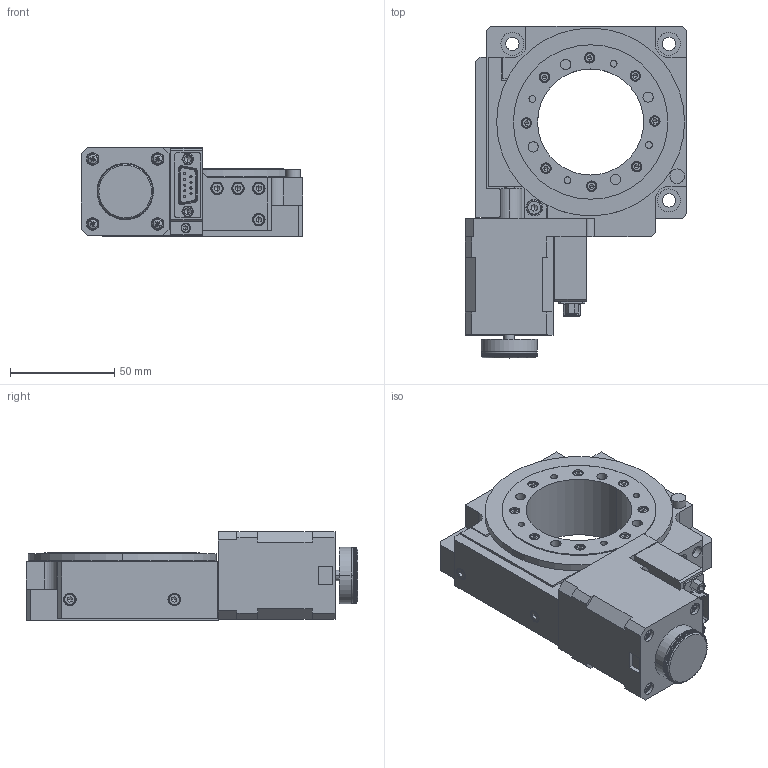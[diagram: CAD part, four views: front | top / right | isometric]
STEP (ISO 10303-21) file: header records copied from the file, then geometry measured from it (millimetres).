
FILE_DESCRIPTION (( 'STEP AP203' ), '1' );
FILE_NAME ('8MR190-2-4247.STEP', '2008-04-23T21:13:11', ( 'STANDA' ), ( '' ), 'SwSTEP 2.0', 'SolidWorks 2003240', '' );
FILE_SCHEMA (( 'CONFIG_CONTROL_DESIGN' ));
Products named in the file (1): 8MR190-2-4247
Bounding box: 106 x 159 x 42.5 mm (x, y, z)
Volume: 329753.3 mm3; surface area: 68793 mm2
Topology: 1 solids, 39 shells, 1806 faces, 4674 edges, 2997 vertices
Faces by surface type: cylinder 789, plane 747, cone 159, bspline 111
Entity records: 59793 total; most frequent: CARTESIAN_POINT 16547, ORIENTED_EDGE 9200, DIRECTION 8883, EDGE_CURVE 4600, AXIS2_PLACEMENT_3D 3419, VERTEX_POINT 2997, VECTOR 2045, LINE 2045
